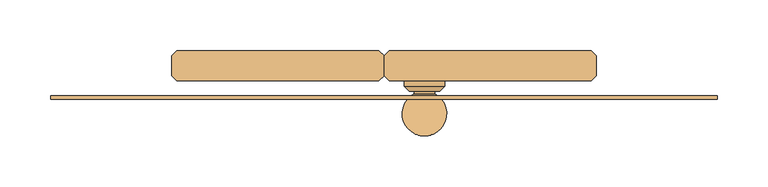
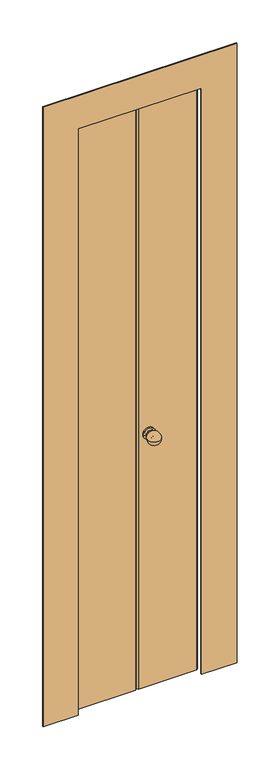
"""IFC4 building model written with IfcOpenShell, lengths in millimetres: door geometry, Placard pliante : Placard pliante 42."""

from ifc_helpers import new_model, si_unit, point, frame, origin, origin_with_axes, place, context, project, spatial, polyline, circle_curve, ellipse_curve, trimmed, outline, extrude, source, transform, mapped, element, save
from ifc_brep_helpers import plane_surface, cylinder_surface, revolved_surface, advanced_brep


def door_626e1f12(model_context):
    return source(origin(), model_context, "Body", "SolidModel", [
        advanced_brep(
        [(50.0, -32.7245901, 910.0), (30.0, -32.7245901, 910.0), (30.0, -30.0, 910.0), (50.0, -30.0, 910.0), (40.0, -74.3205081, 910.0), (60.0, -20.0, 910.0), (20.0, -20.0, 910.0), (40.0, -20.0, 910.0), (60.0, -25.0, 910.0), (20.0, -25.0, 910.0), (55.0, -30.0, 910.0), (25.0, -30.0, 910.0)],
        [
            (0, 1, circle_curve(frame((40.0, -32.7245901, 910.0), z_axis=(0.0, 1.0, 0.0), x_axis=(-1.0, 0.0, 0.0)), 10.0)),
            (1, 2),
            (2, 3, circle_curve(frame((40.0, -30.0, 910.0), z_axis=(0.0, -1.0, 0.0), x_axis=(-1.0, 0.0, 0.0)), 10.0)),
            (3, 0),
            (1, 0, circle_curve(frame((40.0, -32.7245901, 910.0), z_axis=(0.0, 1.0, 0.0), x_axis=(-1.0, 0.0, 0.0)), 10.0)),
            (3, 2, circle_curve(frame((40.0, -30.0, 910.0), z_axis=(0.0, -1.0, 0.0), x_axis=(-1.0, 0.0, 0.0)), 10.0)),
            (4, 1, circle_curve(frame((40.0, -52.3205081, 910.0), z_axis=(0.0, 0.0, -1.0), x_axis=(0.0, -1.0, 0.0)), 22.0)),
            (0, 4, circle_curve(frame((40.0, -52.3205081, 910.0), z_axis=(0.0, 0.0, -1.0), x_axis=(0.0, -1.0, 0.0)), 22.0)),
            (5, 6, circle_curve(frame((40.0, -20.0, 910.0), z_axis=(0.0, 1.0, 0.0), x_axis=(-1.0, 0.0, 0.0)), 20.0)),
            (6, 7),
            (7, 5),
            (6, 5, circle_curve(frame((40.0, -20.0, 910.0), z_axis=(0.0, 1.0, 0.0), x_axis=(-1.0, 0.0, 0.0)), 20.0)),
            (8, 9, circle_curve(frame((40.0, -25.0, 910.0), z_axis=(0.0, 1.0, 0.0), x_axis=(-1.0, 0.0, 0.0)), 20.0)),
            (9, 6),
            (5, 8),
            (9, 8, circle_curve(frame((40.0, -25.0, 910.0), z_axis=(0.0, 1.0, 0.0), x_axis=(-1.0, 0.0, 0.0)), 20.0)),
            (10, 11, circle_curve(frame((40.0, -30.0, 910.0), z_axis=(0.0, 1.0, 0.0), x_axis=(-1.0, 0.0, 0.0)), 15.0)),
            (11, 9),
            (8, 10),
            (11, 10, circle_curve(frame((40.0, -30.0, 910.0), z_axis=(0.0, 1.0, 0.0), x_axis=(-1.0, 0.0, 0.0)), 15.0)),
            (2, 11),
            (10, 3),
        ],
        [
            cylinder_surface(frame((40.0, 569.1103609, 910.0), z_axis=(0.0, -1.0, 0.0), x_axis=(-1.0, 0.0, 0.0)), 10.0),
            revolved_surface(trimmed(ellipse_curve(frame((40.0, -52.3205081, 910.0), z_axis=(0.0, 0.0, 1.0), x_axis=(0.0, -1.0, 0.0)), 22.0, 22.0), [point((30.0, -32.7245901, 910.0))], [point((40.0, -74.3205081, 910.0))], True, "CARTESIAN"), (40.0, 569.1103609, 910.0), (0.0, -1.0, 0.0)),
            plane_surface(frame((40.0, -20.0, 910.0), z_axis=(0.0, 1.0, 0.0), x_axis=(-1.0, 0.0, 0.0))),
            cylinder_surface(frame((40.0, 569.1103609, 910.0), z_axis=(0.0, -1.0, 0.0), x_axis=(-1.0, 0.0, 0.0)), 20.0),
            revolved_surface(polyline([(20.0, -25.0, 910.0), (25.0, -30.0, 910.0)]), (40.0, 569.1103609, 910.0), (0.0, -1.0, 0.0)),
            plane_surface(frame((40.0, -30.0, 910.0), z_axis=(0.0, -1.0, 0.0), x_axis=(-1.0, 0.0, 0.0))),
        ],
        [
            (0, [[1, 2, 3, 4]]),
            (0, [[5, -4, 6, -2]]),
            (1, [[7, -1, 8]]),
            (1, [[-8, -5, -7]]),
            (2, [[9, 10, 11]]),
            (2, [[12, -11, -10]]),
            (3, [[13, 14, -9, 15]]),
            (3, [[16, -15, -12, -14]]),
            (4, [[17, 18, -13, 19]]),
            (4, [[20, -19, -16, -18]]),
            (5, [[-3, 21, -17, 22]]),
            (5, [[-6, -22, -20, -21]]),
        ],
    ),
        extrude(outline(polyline([(204.9960715, -20.0), (5.0039285, -20.0), (0.0, -15.0), (0.0, 5.0), (5.0039285, 10.0), (204.9960715, 10.0), (210.0, 5.0), (210.0, -15.0), (204.9960715, -20.0)])), origin_with_axes(), (0.0, 0.0, 1.0), 2100.0),
        extrude(outline(polyline([(-5.0039285, -20.0), (-204.9960715, -20.0), (-210.0, -15.0), (-210.0, 5.0), (-204.9960715, 10.0), (-5.0039285, 10.0), (0.0, 5.0), (0.0, -15.0), (-5.0039285, -20.0)])), origin_with_axes(), (0.0, 0.0, 1.0), 2100.0),
        extrude(outline(polyline([(2220.0, 330.0), (2220.0, -330.0), (-7.4641799, -330.0), (-7.4641799, -210.0), (2100.0, -210.0), (2100.0, 210.0), (-7.4641799, 210.0), (-7.4641799, 330.0), (2220.0, 330.0)])), frame((0.0, -38.0, 0.0), z_axis=(0.0, 1.0, 0.0), x_axis=(0.0, 0.0, 1.0)), (0.0, 0.0, 1.0), 3.0),
    ])


if __name__ == "__main__":
    model = new_model("IFC4")
    model_context = context("Model", 3, world=origin())
    ifc_project = project(units=[si_unit("LENGTHUNIT", "METRE", prefix="MILLI")], contexts=[model_context])
    site = spatial("IfcSite", under=ifc_project)
    building = spatial("IfcBuilding", under=site)
    placement = place(None, origin())
    door_shape = door_626e1f12(model_context)
    element("IfcDoor", 1, ObjectType="Placard pliante : Placard pliante 42", at=placement, inside=building, context=model_context, shape_type="MappedRepresentation", body=[
        mapped(door_shape, transform((0.0, 0.0, 0.0), x_axis=(1.0, 0.0, 0.0), y_axis=(0.0, 1.0, 0.0), z_axis=(0.0, 0.0, 1.0))),
    ])
    save(model, "model.ifc")
